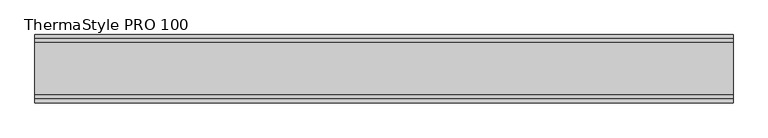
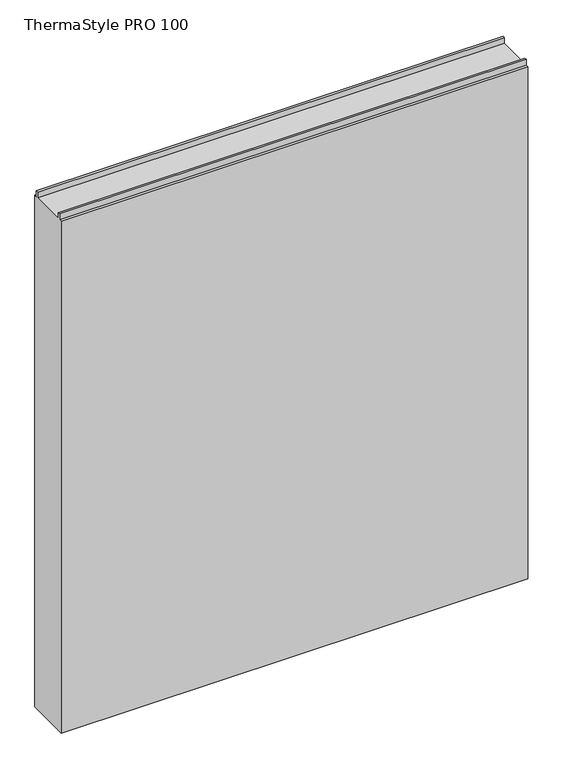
"""IFC4 building model written with IfcOpenShell, lengths in millimetres: plate geometry, Europanels_ThermaStyle PRO_Hz : ThermaStyle PRO 100."""

from ifc_helpers import new_model, si_unit, frame, origin, place, context, project, spatial, polyline, outline, extrude, source, transform, mapped, element, save


def thermastyle_pro_100_5ec8e953(model_context):
    return source(origin(), model_context, "Body", "SweptSolid", [
        extrude(outline(polyline([(50.0, 1189.0), (50.0, 0.0), (-50.0, 0.0), (-50.0, 1189.0), (-44.0, 1189.0), (-44.0, 1201.9631544), (-38.8855682, 1201.9631544), (-38.8855682, 1189.0), (38.8855682, 1189.0), (38.8855682, 1201.9631544), (44.0, 1201.9631544), (44.0, 1189.0), (50.0, 1189.0)])), frame((-512.5, 0.0, 0.0), z_axis=(1.0, 0.0, 0.0), x_axis=(0.0, 1.0, 0.0)), (0.0, 0.0, 1.0), 1025.0),
    ])


if __name__ == "__main__":
    model = new_model("IFC4")
    model_context = context("Model", 3, world=origin())
    ifc_project = project(units=[si_unit("LENGTHUNIT", "METRE", prefix="MILLI")], contexts=[model_context])
    site = spatial("IfcSite", under=ifc_project)
    building = spatial("IfcBuilding", under=site)
    placement = place(None, origin())
    thermastyle_pro_100_shape = thermastyle_pro_100_5ec8e953(model_context)
    element("IfcPlate", 1, ObjectType="Europanels_ThermaStyle PRO_Hz : ThermaStyle PRO 100", at=placement, inside=building, context=model_context, shape_type="MappedRepresentation", body=[
        mapped(thermastyle_pro_100_shape, transform((0.0, 0.0, 0.0), x_axis=(1.0, 0.0, 0.0), y_axis=(0.0, 1.0, 0.0), z_axis=(0.0, 0.0, 1.0))),
    ])
    save(model, "model.ifc")
